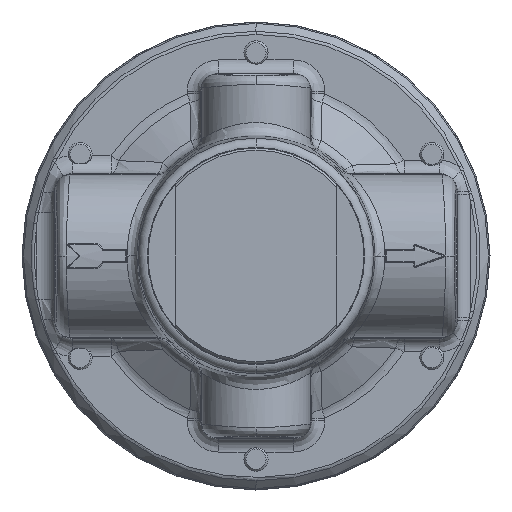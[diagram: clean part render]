
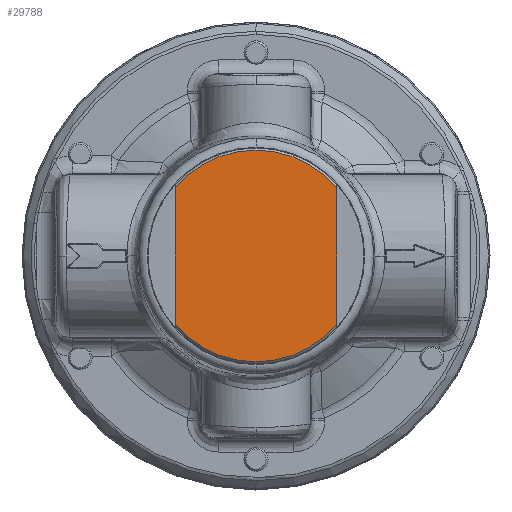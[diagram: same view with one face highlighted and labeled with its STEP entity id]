
A CAD part, front view. The second image highlights one B-rep face of the part: STEP entity #29788.
In plain terms, the highlighted planar face has unit normal (0, -1, 0).
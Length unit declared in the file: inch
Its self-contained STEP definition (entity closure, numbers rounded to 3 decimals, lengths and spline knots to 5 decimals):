
#16930 = AXIS2_PLACEMENT_3D ( 'NONE', #17685, #17691, #17692 ) ;
#17083 = CIRCLE ( 'NONE', #17125, 0.7325 ) ;
#17121 = VECTOR ( 'NONE', #19877, 39.37008 ) ;
#17123 = VECTOR ( 'NONE', #19883, 39.37008 ) ;
#17125 = AXIS2_PLACEMENT_3D ( 'NONE', #19879, #19880, #19881 ) ;
#17126 = CIRCLE ( 'NONE', #17128, 0.7325 ) ;
#17128 = AXIS2_PLACEMENT_3D ( 'NONE', #19884, #19885, #19886 ) ;
#17685 = CARTESIAN_POINT ( 'NONE',  ( 0., -1.906, 0. ) ) ;
#17687 = FACE_OUTER_BOUND ( 'NONE', #31461, .T. ) ;
#17688 = PLANE ( 'NONE',  #16930 ) ;
#17691 = DIRECTION ( 'NONE',  ( 0., -1., 0. ) ) ;
#17692 = DIRECTION ( 'NONE',  ( 1., 0., 0. ) ) ;
#19669 = CARTESIAN_POINT ( 'NONE',  ( -0.55875, -1.906, 0.47366 ) ) ;
#19672 = CARTESIAN_POINT ( 'NONE',  ( -0.55875, -1.906, -0.47366 ) ) ;
#19674 = CARTESIAN_POINT ( 'NONE',  ( 0.55875, -1.906, -0.47366 ) ) ;
#19675 = CARTESIAN_POINT ( 'NONE',  ( 0.55875, -1.906, 0.47366 ) ) ;
#19867 = LINE ( 'NONE', #19868, #17121 ) ;
#19868 = CARTESIAN_POINT ( 'NONE',  ( -0.55875, -1.906, 0. ) ) ;
#19877 = DIRECTION ( 'NONE',  ( 0., 0., 1. ) ) ;
#19878 = LINE ( 'NONE', #19882, #17123 ) ;
#19879 = CARTESIAN_POINT ( 'NONE',  ( 0., -1.906, 0. ) ) ;
#19880 = DIRECTION ( 'NONE',  ( 0., -1., 0. ) ) ;
#19881 = DIRECTION ( 'NONE',  ( 1., 0., 0. ) ) ;
#19882 = CARTESIAN_POINT ( 'NONE',  ( 0.55875, -1.906, 0. ) ) ;
#19883 = DIRECTION ( 'NONE',  ( 0., 0., 1. ) ) ;
#19884 = CARTESIAN_POINT ( 'NONE',  ( 0., -1.906, 0. ) ) ;
#19885 = DIRECTION ( 'NONE',  ( 0., -1., 0. ) ) ;
#19886 = DIRECTION ( 'NONE',  ( 1., 0., 0. ) ) ;
#28101 = ORIENTED_EDGE ( 'NONE', *, *, #31707, .F. ) ;
#28102 = ORIENTED_EDGE ( 'NONE', *, *, #31708, .T. ) ;
#28103 = ORIENTED_EDGE ( 'NONE', *, *, #31709, .T. ) ;
#28104 = ORIENTED_EDGE ( 'NONE', *, *, #31710, .T. ) ;
#29788 = ADVANCED_FACE ( 'NONE', ( #17687 ), #17688, .T. ) ;
#31183 = VERTEX_POINT ( 'NONE', #19669 ) ;
#31186 = VERTEX_POINT ( 'NONE', #19672 ) ;
#31188 = VERTEX_POINT ( 'NONE', #19674 ) ;
#31189 = VERTEX_POINT ( 'NONE', #19675 ) ;
#31461 = EDGE_LOOP ( 'NONE', ( #28101, #28102, #28103, #28104 ) ) ;
#31707 = EDGE_CURVE ( 'NONE', #31186, #31183, #19867, .T. ) ;
#31708 = EDGE_CURVE ( 'NONE', #31186, #31188, #17083, .T. ) ;
#31709 = EDGE_CURVE ( 'NONE', #31188, #31189, #19878, .T. ) ;
#31710 = EDGE_CURVE ( 'NONE', #31189, #31183, #17126, .T. ) ;
